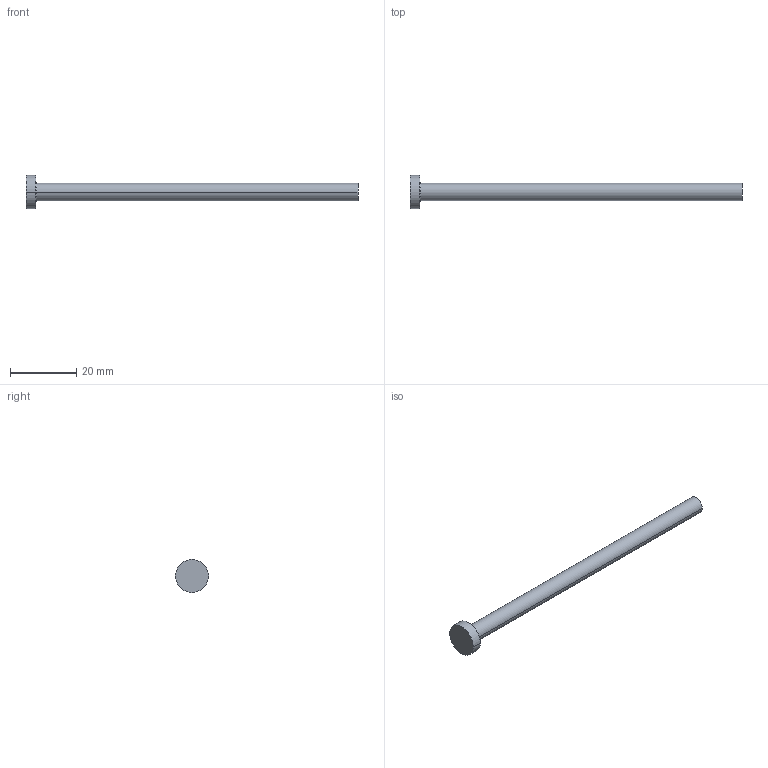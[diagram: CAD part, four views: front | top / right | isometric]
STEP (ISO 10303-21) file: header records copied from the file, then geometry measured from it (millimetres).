
FILE_DESCRIPTION (( 'STEP AP214' ), '1' );
FILE_NAME ('A-5,2x100.STEP', '2020-05-29T10:29:28', ( 'August' ), ( '' ), 'SwSTEP 2.0', 'SolidWorks 2018', '' );
FILE_SCHEMA (( 'AUTOMOTIVE_DESIGN' ));
Length unit declared in the file: millimetre
Products named in the file (1): A-5,2x100
Bounding box: 100 x 10 x 10 mm (x, y, z)
Volume: 2295.9 mm3; surface area: 1833.9 mm2
Topology: 1 solids, 1 shells, 9 faces, 16 edges, 10 vertices
Faces by surface type: cylinder 4, plane 3, torus 2
Entity records: 260 total; most frequent: DIRECTION 48, CARTESIAN_POINT 36, ORIENTED_EDGE 32, AXIS2_PLACEMENT_3D 22, EDGE_CURVE 16, CIRCLE 12, VERTEX_POINT 10, EDGE_LOOP 10
